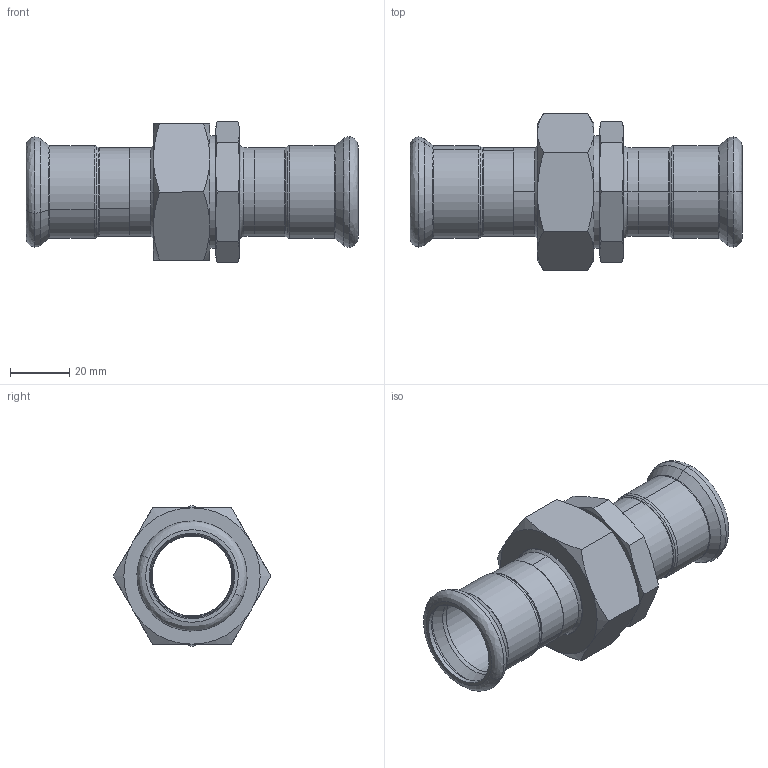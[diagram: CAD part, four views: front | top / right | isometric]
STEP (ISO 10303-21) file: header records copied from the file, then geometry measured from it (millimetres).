
FILE_DESCRIPTION (( 'STEP AP203' ), '1' );
FILE_NAME ('GDA5474.STEP', '2019-01-17T02:16:41', ( '' ), ( '' ), 'SwSTEP 2.0', 'SolidWorks 2015', '' );
FILE_SCHEMA (( 'CONFIG_CONTROL_DESIGN' ));
Length unit declared in the file: millimetre
Products named in the file (7): T-ｉ-01-28; 1.25; 28｡ﾁ1_; 28; GDA5474; UN-Ⅰ-01×1_; ZL-Ⅰ-01×1_
Assembly tree (7 placements, depth 3):
  GDA5474
    28｡ﾁ1_
    1.25
    28  x2
      T-ｉ-01-28
    UN-Ⅰ-01×1_
    ZL-Ⅰ-01×1_
Bounding box: 112 x 53.12 x 47.63 mm (x, y, z)
Volume: 46965.4 mm3; surface area: 35123 mm2
Topology: 6 solids, 6 shells, 172 faces, 358 edges, 205 vertices
Faces by surface type: cone 53, cylinder 44, bspline 42, plane 33
Entity records: 5026 total; most frequent: CARTESIAN_POINT 1535, DIRECTION 603, ORIENTED_EDGE 552, EDGE_CURVE 276, AXIS2_PLACEMENT_3D 269, VERTEX_POINT 161, CIRCLE 149, EDGE_LOOP 147
